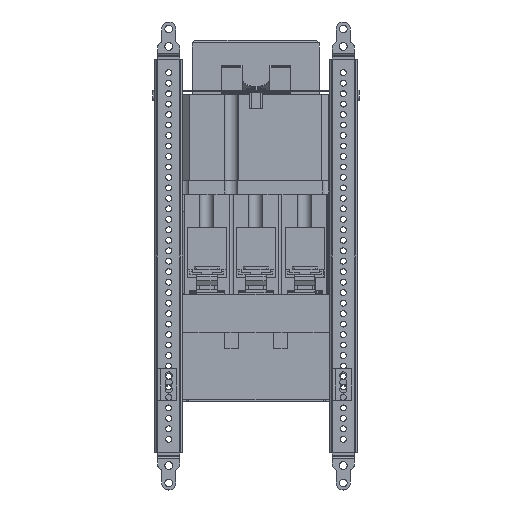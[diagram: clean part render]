
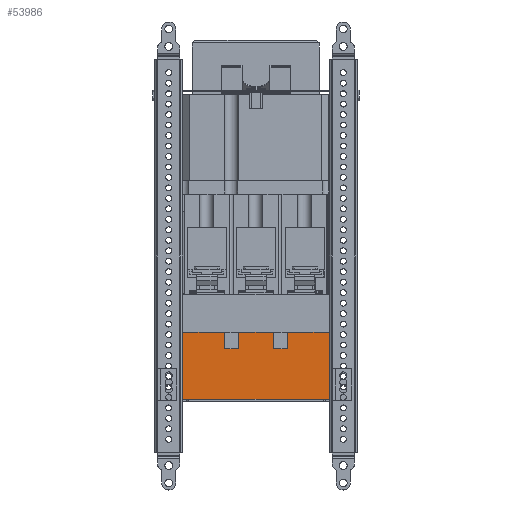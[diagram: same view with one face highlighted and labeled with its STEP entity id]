
A CAD part, left-side view. The second image highlights one B-rep face of the part: STEP entity #53986.
In plain terms, the highlighted planar face has unit normal (-1, 0, 0).
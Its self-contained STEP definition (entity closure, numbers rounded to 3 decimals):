
#51971=CARTESIAN_POINT(' ',(-117.161,-49.467,-65.647));
#51972=VERTEX_POINT(' ',#51971);
#51986=CARTESIAN_POINT(' ',(-117.161,55.533,-65.647));
#51991=DIRECTION(' ',(0.,-1.,0.));
#51996=VECTOR(' ',#51991,1.);
#52001=LINE('',#51986,#51996);
#52006=CARTESIAN_POINT(' ',(-117.161,55.533,-65.647));
#52007=VERTEX_POINT(' ',#52006);
#52011=EDGE_CURVE(' ',#52007,#51972,#52001,.T.);
#52391=CARTESIAN_POINT(' ',(-117.161,-49.467,-17.647));
#52392=VERTEX_POINT(' ',#52391);
#52406=CARTESIAN_POINT(' ',(-117.161,-49.467,-65.647));
#52411=DIRECTION(' ',(0.,0.,1.));
#52416=VECTOR(' ',#52411,1.);
#52421=LINE('',#52406,#52416);
#52426=EDGE_CURVE(' ',#51972,#52392,#52421,.T.);
#53036=CARTESIAN_POINT(' ',(-117.161,55.533,-65.647));
#53041=DIRECTION(' ',(0.,0.,1.));
#53046=VECTOR(' ',#53041,1.);
#53051=LINE('',#53036,#53046);
#53056=CARTESIAN_POINT(' ',(-117.161,55.533,-17.647));
#53057=VERTEX_POINT(' ',#53056);
#53061=EDGE_CURVE(' ',#52007,#53057,#53051,.T.);
#53626=DIRECTION(' ',(-1.,0.,0.));
#53631=CARTESIAN_POINT(' ',(-117.161,-49.467,-17.647));
#53636=DIRECTION(' ',(0.,1.,0.));
#53641=AXIS2_PLACEMENT_3D(' ',#53631,#53626,#53636);
#53646=PLANE('NONE',#53641);
#53651=CARTESIAN_POINT(' ',(-117.161,-19.467,-29.647));
#53656=DIRECTION(' ',(0.,0.,1.));
#53661=VECTOR(' ',#53656,1.);
#53666=LINE('',#53651,#53661);
#53671=CARTESIAN_POINT(' ',(-117.161,-19.467,-29.647));
#53672=VERTEX_POINT(' ',#53671);
#53676=CARTESIAN_POINT(' ',(-117.161,-19.467,-17.647));
#53677=VERTEX_POINT(' ',#53676);
#53681=EDGE_CURVE(' ',#53672,#53677,#53666,.T.);
#53686=ORIENTED_EDGE(' ',*,*,#53681,.F.);
#53691=CARTESIAN_POINT(' ',(-117.161,-9.467,-29.647));
#53696=DIRECTION(' ',(0.,-1.,0.));
#53701=VECTOR(' ',#53696,1.);
#53706=LINE('',#53691,#53701);
#53711=CARTESIAN_POINT(' ',(-117.161,-9.467,-29.647));
#53712=VERTEX_POINT(' ',#53711);
#53716=EDGE_CURVE(' ',#53712,#53672,#53706,.T.);
#53721=ORIENTED_EDGE(' ',*,*,#53716,.F.);
#53726=CARTESIAN_POINT(' ',(-117.161,-9.467,-17.647));
#53731=DIRECTION(' ',(0.,0.,-1.));
#53736=VECTOR(' ',#53731,1.);
#53741=LINE('',#53726,#53736);
#53746=CARTESIAN_POINT(' ',(-117.161,-9.467,-17.647));
#53747=VERTEX_POINT(' ',#53746);
#53751=EDGE_CURVE(' ',#53747,#53712,#53741,.T.);
#53756=ORIENTED_EDGE(' ',*,*,#53751,.F.);
#53761=CARTESIAN_POINT(' ',(-117.161,-9.467,-17.647));
#53766=DIRECTION(' ',(0.,1.,0.));
#53771=VECTOR(' ',#53766,1.);
#53776=LINE('',#53761,#53771);
#53781=CARTESIAN_POINT(' ',(-117.161,15.533,-17.647));
#53782=VERTEX_POINT(' ',#53781);
#53786=EDGE_CURVE(' ',#53747,#53782,#53776,.T.);
#53791=ORIENTED_EDGE(' ',*,*,#53786,.T.);
#53796=CARTESIAN_POINT(' ',(-117.161,15.533,-29.647));
#53801=DIRECTION(' ',(0.,0.,1.));
#53806=VECTOR(' ',#53801,1.);
#53811=LINE('',#53796,#53806);
#53816=CARTESIAN_POINT(' ',(-117.161,15.533,-29.647));
#53817=VERTEX_POINT(' ',#53816);
#53821=EDGE_CURVE(' ',#53817,#53782,#53811,.T.);
#53826=ORIENTED_EDGE(' ',*,*,#53821,.F.);
#53831=CARTESIAN_POINT(' ',(-117.161,25.533,-29.647));
#53836=DIRECTION(' ',(0.,-1.,0.));
#53841=VECTOR(' ',#53836,1.);
#53846=LINE('',#53831,#53841);
#53851=CARTESIAN_POINT(' ',(-117.161,25.533,-29.647));
#53852=VERTEX_POINT(' ',#53851);
#53856=EDGE_CURVE(' ',#53852,#53817,#53846,.T.);
#53861=ORIENTED_EDGE(' ',*,*,#53856,.F.);
#53866=CARTESIAN_POINT(' ',(-117.161,25.533,-17.647));
#53871=DIRECTION(' ',(0.,0.,-1.));
#53876=VECTOR(' ',#53871,1.);
#53881=LINE('',#53866,#53876);
#53886=CARTESIAN_POINT(' ',(-117.161,25.533,-17.647));
#53887=VERTEX_POINT(' ',#53886);
#53891=EDGE_CURVE(' ',#53887,#53852,#53881,.T.);
#53896=ORIENTED_EDGE(' ',*,*,#53891,.F.);
#53901=CARTESIAN_POINT(' ',(-117.161,55.533,-17.647));
#53906=DIRECTION(' ',(0.,-1.,0.));
#53911=VECTOR(' ',#53906,1.);
#53916=LINE('',#53901,#53911);
#53921=EDGE_CURVE(' ',#53057,#53887,#53916,.T.);
#53926=ORIENTED_EDGE(' ',*,*,#53921,.F.);
#53931=ORIENTED_EDGE(' ',*,*,#53061,.F.);
#53936=ORIENTED_EDGE(' ',*,*,#52011,.T.);
#53941=ORIENTED_EDGE(' ',*,*,#52426,.T.);
#53946=CARTESIAN_POINT(' ',(-117.161,-19.467,-17.647));
#53951=DIRECTION(' ',(0.,-1.,0.));
#53956=VECTOR(' ',#53951,1.);
#53961=LINE('',#53946,#53956);
#53966=EDGE_CURVE(' ',#53677,#52392,#53961,.T.);
#53971=ORIENTED_EDGE(' ',*,*,#53966,.F.);
#53976=EDGE_LOOP(' ',(#53686,#53721,#53756,#53791,#53826,#53861,#53896,#53926,#53931,#53936,#53941,#53971));
#53981=FACE_OUTER_BOUND(' ',#53976,.T.);
#53986=ADVANCED_FACE('NONE',(#53981),#53646,.T.);
